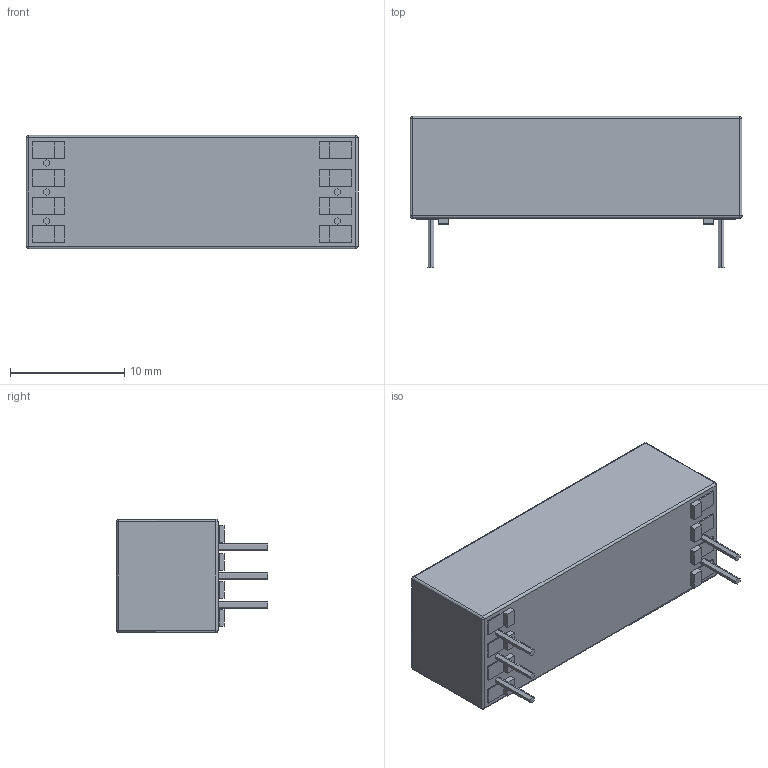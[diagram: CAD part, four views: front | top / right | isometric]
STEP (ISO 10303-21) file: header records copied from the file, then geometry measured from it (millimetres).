
FILE_DESCRIPTION (( 'STEP AP203' ), '1' );
FILE_NAME ('88-1-C.STEP', '2010-06-29T13:36:57', ( ' ' ), ( '' ), 'SwSTEP 2.0', 'SolidWorks 2009', '' );
FILE_SCHEMA (( 'CONFIG_CONTROL_DESIGN' ));
Products named in the file (1): 88-1-C
Bounding box: 29 x 13.2 x 9.9 mm (x, y, z)
Topology: 1 solids, 3 shells, 773 faces, 2034 edges, 1340 vertices
Faces by surface type: plane 474, bspline 263, cylinder 26, sphere 10
Entity records: 37565 total; most frequent: CARTESIAN_POINT 20187, ORIENTED_EDGE 4054, DIRECTION 2577, EDGE_CURVE 2027, LINE 1447, VECTOR 1447, VERTEX_POINT 1340, EDGE_LOOP 857
